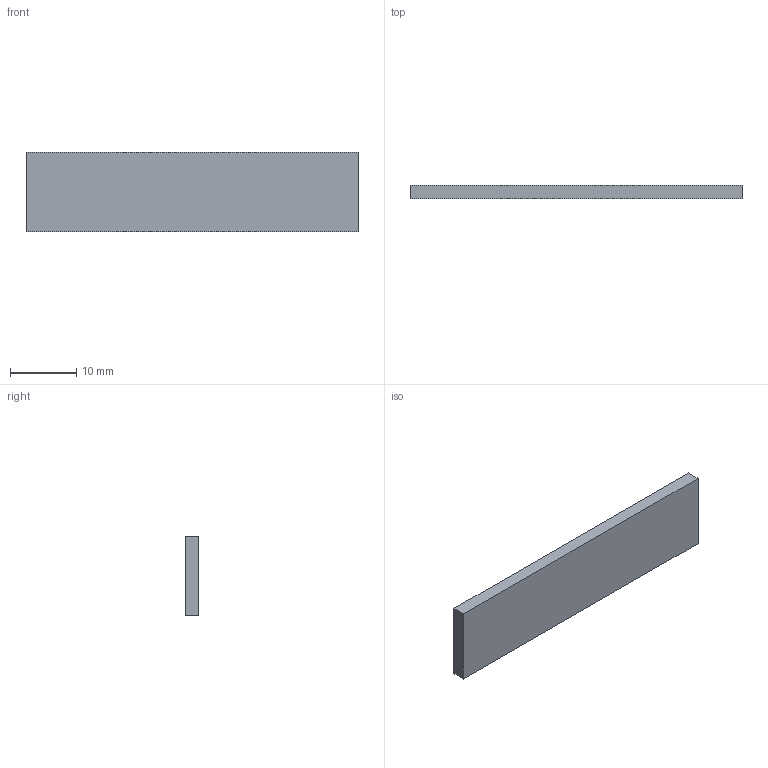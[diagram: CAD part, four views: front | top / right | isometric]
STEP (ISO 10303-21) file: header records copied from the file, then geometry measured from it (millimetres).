
FILE_DESCRIPTION(('STEP AP214'),'1');
FILE_NAME('R02S-.stp','2017-07-25T06:56:19',(' '),(' '),'Spatial InterOp 3D',' ',' ');
FILE_SCHEMA(('automotive_design'));
Length unit declared in the file: millimetre
Products named in the file (1): R02S-
Bounding box: 50 x 2 x 12 mm (x, y, z)
Volume: 1200 mm3; surface area: 1448 mm2
Topology: 1 solids, 1 shells, 6 faces, 12 edges, 8 vertices
Faces by surface type: plane 6
Entity records: 220 total; most frequent: CARTESIAN_POINT 27, DIRECTION 26, ORIENTED_EDGE 24, EDGE_CURVE 12, LINE 12, VECTOR 12, VERTEX_POINT 8, AXIS2_PLACEMENT_3D 7
